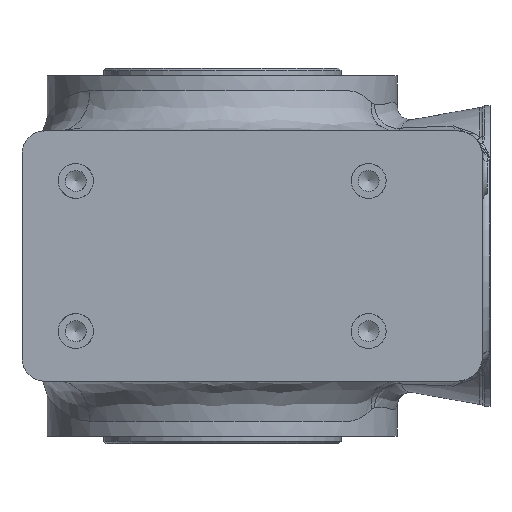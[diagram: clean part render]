
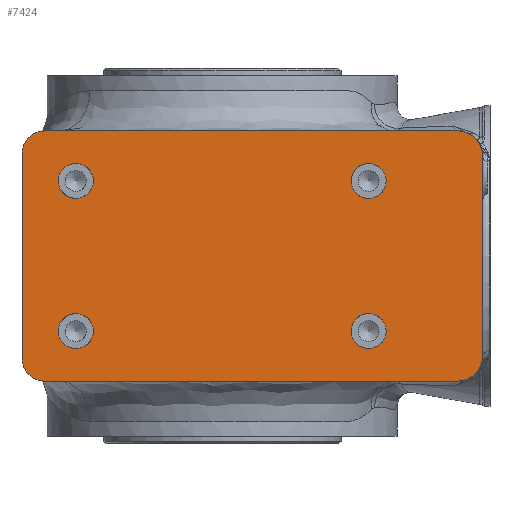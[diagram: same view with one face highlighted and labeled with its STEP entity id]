
A CAD part, front view. The second image highlights one B-rep face of the part: STEP entity #7424.
In plain terms, the highlighted planar face has unit normal (0, -1, 0).
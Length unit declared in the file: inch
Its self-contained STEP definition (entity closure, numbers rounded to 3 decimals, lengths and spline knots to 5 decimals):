
#719=FACE_BOUND('',#2237,.T.);
#720=FACE_BOUND('',#2238,.T.);
#721=FACE_BOUND('',#2239,.T.);
#722=FACE_BOUND('',#2240,.T.);
#1196=CIRCLE('',#8118,0.27559);
#1197=CIRCLE('',#8120,0.27559);
#1199=CIRCLE('',#8123,0.27559);
#1200=CIRCLE('',#8125,0.27559);
#1212=CIRCLE('',#8141,0.35433);
#1217=CIRCLE('',#8149,0.3937);
#1218=CIRCLE('',#8151,0.3937);
#1219=CIRCLE('',#8152,0.35433);
#1637=FACE_OUTER_BOUND('',#2236,.T.);
#2236=EDGE_LOOP('',(#5759,#5760,#5761,#5762,#5763,#5764,#5765,#5766));
#2237=EDGE_LOOP('',(#5767));
#2238=EDGE_LOOP('',(#5768));
#2239=EDGE_LOOP('',(#5769));
#2240=EDGE_LOOP('',(#5770));
#2583=LINE('',#24010,#2778);
#2588=LINE('',#24067,#2783);
#2603=LINE('',#25430,#2798);
#2606=LINE('',#25537,#2801);
#2778=VECTOR('',#9262,3.14961);
#2783=VECTOR('',#9293,3.22835);
#2798=VECTOR('',#9568,6.49606);
#2801=VECTOR('',#9583,6.49606);
#3211=VERTEX_POINT('',#24007);
#3212=VERTEX_POINT('',#24009);
#3221=VERTEX_POINT('',#24031);
#3229=VERTEX_POINT('',#24065);
#3317=VERTEX_POINT('',#25049);
#3318=VERTEX_POINT('',#25052);
#3320=VERTEX_POINT('',#25057);
#3321=VERTEX_POINT('',#25060);
#3334=VERTEX_POINT('',#25323);
#3337=VERTEX_POINT('',#25427);
#3338=VERTEX_POINT('',#25429);
#3346=VERTEX_POINT('',#25521);
#4049=EDGE_CURVE('',#3212,#3211,#2583,.T.);
#4067=EDGE_CURVE('',#3229,#3221,#2588,.T.);
#4164=EDGE_CURVE('',#3317,#3317,#1196,.T.);
#4165=EDGE_CURVE('',#3318,#3318,#1197,.T.);
#4167=EDGE_CURVE('',#3320,#3320,#1199,.T.);
#4168=EDGE_CURVE('',#3321,#3321,#1200,.T.);
#4193=EDGE_CURVE('',#3334,#3229,#1212,.T.);
#4200=EDGE_CURVE('',#3338,#3337,#2603,.T.);
#4210=EDGE_CURVE('',#3212,#3346,#1217,.T.);
#4214=EDGE_CURVE('',#3338,#3211,#1218,.T.);
#4215=EDGE_CURVE('',#3221,#3337,#1219,.T.);
#4216=EDGE_CURVE('',#3346,#3334,#2606,.T.);
#5759=ORIENTED_EDGE('',*,*,#4214,.F.);
#5760=ORIENTED_EDGE('',*,*,#4200,.T.);
#5761=ORIENTED_EDGE('',*,*,#4215,.F.);
#5762=ORIENTED_EDGE('',*,*,#4067,.F.);
#5763=ORIENTED_EDGE('',*,*,#4193,.F.);
#5764=ORIENTED_EDGE('',*,*,#4216,.F.);
#5765=ORIENTED_EDGE('',*,*,#4210,.F.);
#5766=ORIENTED_EDGE('',*,*,#4049,.T.);
#5767=ORIENTED_EDGE('',*,*,#4168,.T.);
#5768=ORIENTED_EDGE('',*,*,#4167,.T.);
#5769=ORIENTED_EDGE('',*,*,#4165,.T.);
#5770=ORIENTED_EDGE('',*,*,#4164,.T.);
#6570=PLANE('',#8150);
#7424=ADVANCED_FACE('',(#1637,#719,#720,#721,#722),#6570,.T.);
#8118=AXIS2_PLACEMENT_3D('',#25050,#9504,#9505);
#8120=AXIS2_PLACEMENT_3D('',#25053,#9508,#9509);
#8123=AXIS2_PLACEMENT_3D('',#25058,#9514,#9515);
#8125=AXIS2_PLACEMENT_3D('',#25061,#9518,#9519);
#8141=AXIS2_PLACEMENT_3D('',#25325,#9554,#9555);
#8149=AXIS2_PLACEMENT_3D('',#25522,#9574,#9575);
#8150=AXIS2_PLACEMENT_3D('',#25534,#9577,#9578);
#8151=AXIS2_PLACEMENT_3D('',#25535,#9579,#9580);
#8152=AXIS2_PLACEMENT_3D('',#25536,#9581,#9582);
#9262=DIRECTION('',(0.,0.,1.));
#9293=DIRECTION('',(0.,0.,1.));
#9504=DIRECTION('center_axis',(0.,1.,0.));
#9505=DIRECTION('ref_axis',(1.,0.,0.));
#9508=DIRECTION('center_axis',(0.,1.,0.));
#9509=DIRECTION('ref_axis',(1.,0.,0.));
#9514=DIRECTION('center_axis',(0.,1.,0.));
#9515=DIRECTION('ref_axis',(1.,0.,0.));
#9518=DIRECTION('center_axis',(0.,1.,0.));
#9519=DIRECTION('ref_axis',(1.,0.,0.));
#9554=DIRECTION('center_axis',(0.,1.,0.));
#9555=DIRECTION('ref_axis',(-0.707,0.,-0.707));
#9568=DIRECTION('',(-1.,0.,0.));
#9574=DIRECTION('center_axis',(0.,1.,0.));
#9575=DIRECTION('ref_axis',(0.707,0.,-0.707));
#9577=DIRECTION('center_axis',(0.,-1.,
0.));
#9578=DIRECTION('ref_axis',(1.,0.,0.));
#9579=DIRECTION('center_axis',(0.,1.,0.));
#9580=DIRECTION('ref_axis',(0.707,0.,0.707));
#9581=DIRECTION('center_axis',(0.,1.,0.));
#9582=DIRECTION('ref_axis',(-0.707,0.,0.707));
#9583=DIRECTION('',(-1.,0.,0.));
#24007=CARTESIAN_POINT('',(1.87248,-2.48469,1.58593));
#24009=CARTESIAN_POINT('',(1.87248,-2.48427,-1.56367));
#24010=CARTESIAN_POINT('',(1.87248,-2.48448,0.01113));
#24031=CARTESIAN_POINT('',(-5.37162,-2.4847,1.6253));
#24065=CARTESIAN_POINT('',(-5.37162,-2.48427,-1.60304));
#24067=CARTESIAN_POINT('',(-5.37162,-2.48422,-1.95737));
#25049=CARTESIAN_POINT('',(-4.24957,-2.48433,-1.16997));
#25050=CARTESIAN_POINT('Origin',(-4.52516,-2.48433,-1.16997));
#25052=CARTESIAN_POINT('',(0.35673,-2.48464,1.19223));
#25053=CARTESIAN_POINT('Origin',(0.08114,-2.48464,1.19223));
#25057=CARTESIAN_POINT('',(-4.24957,-2.48464,1.19223));
#25058=CARTESIAN_POINT('Origin',(-4.52516,-2.48464,1.19223));
#25060=CARTESIAN_POINT('',(0.35673,-2.48433,-1.16997));
#25061=CARTESIAN_POINT('Origin',(0.08114,-2.48433,-1.16997));
#25323=CARTESIAN_POINT('',(-5.01728,-2.48422,-1.95737));
#25325=CARTESIAN_POINT('Origin',(-5.01728,-2.48427,-1.60304));
#25427=CARTESIAN_POINT('',(-5.01728,-2.48475,1.97963));
#25429=CARTESIAN_POINT('',(1.47878,-2.48475,1.97963));
#25430=CARTESIAN_POINT('',(-5.17477,-2.48475,1.97963));
#25521=CARTESIAN_POINT('',(1.47878,-2.48422,-1.95737));
#25522=CARTESIAN_POINT('Origin',(1.47878,-2.48427,-1.56367));
#25534=CARTESIAN_POINT('Origin',(-5.17477,-2.48448,0.01113));
#25535=CARTESIAN_POINT('Origin',(1.47878,-2.48469,1.58593));
#25536=CARTESIAN_POINT('Origin',(-5.01728,-2.4847,1.6253));
#25537=CARTESIAN_POINT('',(-5.17477,-2.48422,-1.95737));
